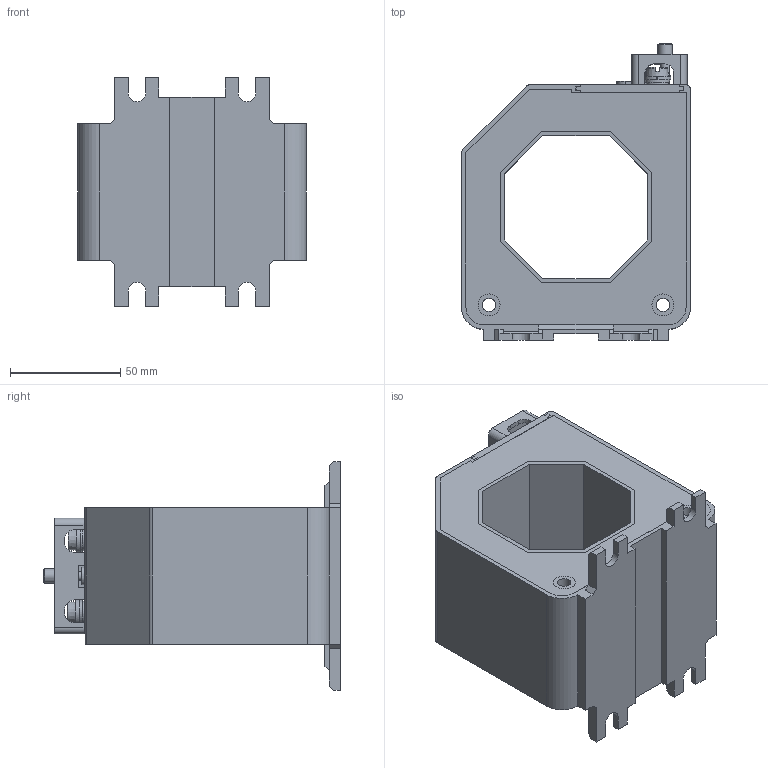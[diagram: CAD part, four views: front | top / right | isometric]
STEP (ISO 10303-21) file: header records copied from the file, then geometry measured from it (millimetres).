
FILE_DESCRIPTION(/* description */ (''),/* implementation_level */ '2;1');
FILE_NAME(/* name */ 'T:\EngMecanica\DESENHOS INVENTOR\Catalogo 2019\Arquivos STEP\KR-715.stp',/* time_stamp */ '2026-04-17T15:29:08-03:00',/* author */ ('jose.luis'),/* organization */ (''),/* preprocessor_version */ 'ST-DEVELOPER v18.1',/* originating_system */ 'Autodesk Inventor 2021',/* authorisation */ '');
FILE_SCHEMA (('AUTOMOTIVE_DESIGN { 1 0 10303 214 3 1 1 }'));
Length unit declared in the file: millimetre
Products named in the file (10): KR-715; Protetor de borne - Teste 12-03-2021; parafuso recartilhado - KP-201; Resina; Invólucro KR-715 - 65x30mm - com tampa - sem trilho DIN; Tampa Invólucro KR-715; borne; AS 1237 - 6; ASME B18.21.2M - 6, LWSRHSLW; AS 1427 - M6 x 8
Assembly tree (13 placements, depth 2):
  KR-715
    Protetor de borne - Teste 12-03-2021
    parafuso recartilhado - KP-201
    Resina
    borne  x2
    Invólucro KR-715 - 65x30mm - com tampa - sem trilho DIN
    Tampa Invólucro KR-715
    AS 1237 - 6  x2
    ASME B18.21.2M - 6, LWSRHSLW  x2
    AS 1427 - M6 x 8  x2
Bounding box: 104 x 134.8 x 104 mm (x, y, z)
Volume: 495558.1 mm3; surface area: 169303.5 mm2
Topology: 13 solids, 13 shells, 649 faces, 1706 edges, 1128 vertices
Faces by surface type: plane 454, cylinder 88, bspline 87, cone 13, torus 6, sphere 1
Full cylindrical faces by diameter (mm): 3.969 x1, 4 x1, 4.5 x1, 4.773 x2, 4.9 x1, 4.917 x2, 6 x4, 6.4 x2, 6.5 x1, 7 x1, 10 x6, 10.5 x2, 11 x2, 12 x5
Entity records: 19841 total; most frequent: CARTESIAN_POINT 4543, ORIENTED_EDGE 3246, DIRECTION 2713, EDGE_CURVE 1623, LINE 1263, VECTOR 1263, VERTEX_POINT 1075, AXIS2_PLACEMENT_3D 725
